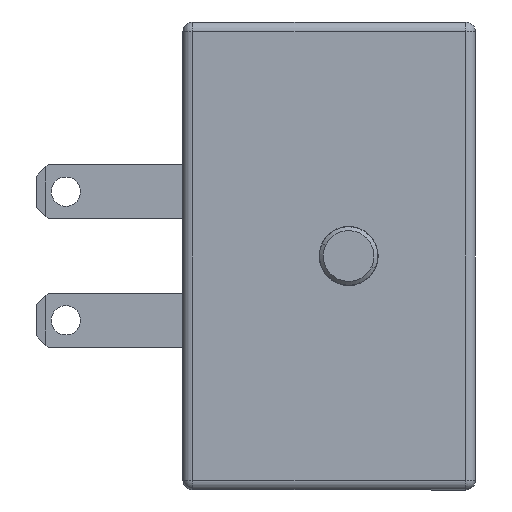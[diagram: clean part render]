
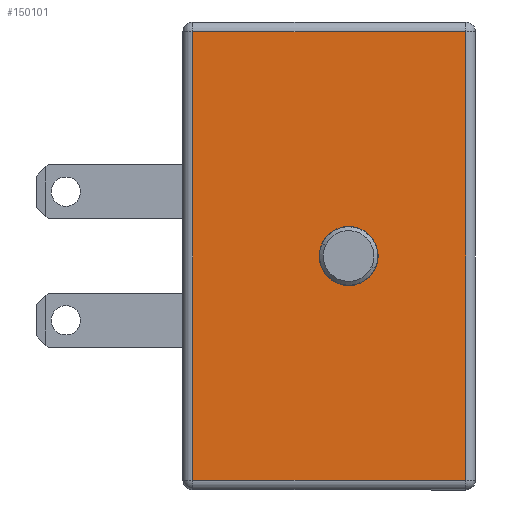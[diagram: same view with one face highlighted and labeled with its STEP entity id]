
A CAD part, left-side view. The second image highlights one B-rep face of the part: STEP entity #150101.
In plain terms, the highlighted planar face has unit normal (-1, 0, 0) as drawn and (0, 0, -1) by its records, which use the part's own axes.
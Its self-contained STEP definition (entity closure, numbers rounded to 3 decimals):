
#612 = VECTOR ( 'NONE', #70047, 1000. ) ;
#3307 = EDGE_CURVE ( 'NONE', #244696, #35557, #218947, .T. ) ;
#31004 = EDGE_LOOP ( 'NONE', ( #289036, #219005, #36861, #141944 ) ) ;
#35557 = VERTEX_POINT ( 'NONE', #102575 ) ;
#36861 = ORIENTED_EDGE ( 'NONE', *, *, #196784, .T. ) ;
#43823 = CARTESIAN_POINT ( 'NONE',  ( -11.5, -6., -52. ) ) ;
#48423 = DIRECTION ( 'NONE',  ( 0., 0., -1. ) ) ;
#60783 = CARTESIAN_POINT ( 'NONE',  ( -0.738, 1.323, -52. ) ) ;
#62293 = ORIENTED_EDGE ( 'NONE', *, *, #146040, .T. ) ;
#63508 = VECTOR ( 'NONE', #224549, 1000. ) ;
#70047 = DIRECTION ( 'NONE',  ( 0., 1., 0. ) ) ;
#78273 = DIRECTION ( 'NONE',  ( 0., 0., 1. ) ) ;
#85326 = EDGE_CURVE ( 'NONE', #131735, #228210, #153328, .T. ) ;
#92691 = EDGE_LOOP ( 'NONE', ( #62293, #278030 ) ) ;
#94389 = LINE ( 'NONE', #236343, #207138 ) ;
#102575 = CARTESIAN_POINT ( 'NONE',  ( -11.5, 8., -52. ) ) ;
#106475 = DIRECTION ( 'NONE',  ( 1., 0., 0. ) ) ;
#116274 = VERTEX_POINT ( 'NONE', #230665 ) ;
#130913 = AXIS2_PLACEMENT_3D ( 'NONE', #213167, #78273, #235744 ) ;
#131428 = FACE_OUTER_BOUND ( 'NONE', #31004, .T. ) ;
#131735 = VERTEX_POINT ( 'NONE', #60783 ) ;
#134122 = DIRECTION ( 'NONE',  ( 0., 0., 1. ) ) ;
#141944 = ORIENTED_EDGE ( 'NONE', *, *, #3307, .T. ) ;
#146040 = EDGE_CURVE ( 'NONE', #228210, #131735, #188540, .T. ) ;
#150101 = ADVANCED_FACE ( 'NONE', ( #251263, #131428 ), #183194, .T. ) ;
#151054 = LINE ( 'NONE', #218802, #270911 ) ;
#153328 = CIRCLE ( 'NONE', #130913, 1.515 ) ;
#162411 = CARTESIAN_POINT ( 'NONE',  ( -12., -6., -52. ) ) ;
#183194 = PLANE ( 'NONE',  #203149 ) ;
#186477 = CARTESIAN_POINT ( 'NONE',  ( 0.738, -1.323, -52. ) ) ;
#188540 = CIRCLE ( 'NONE', #202296, 1.515 ) ;
#196784 = EDGE_CURVE ( 'NONE', #116274, #244696, #221969, .T. ) ;
#202296 = AXIS2_PLACEMENT_3D ( 'NONE', #269008, #134122, #291494 ) ;
#203149 = AXIS2_PLACEMENT_3D ( 'NONE', #272779, #48423, #205927 ) ;
#205927 = DIRECTION ( 'NONE',  ( -0.487, 0.873, 0. ) ) ;
#207138 = VECTOR ( 'NONE', #263768, 1000. ) ;
#207595 = CARTESIAN_POINT ( 'NONE',  ( 11.5, 8., -52. ) ) ;
#213167 = CARTESIAN_POINT ( 'NONE',  ( 0., 0., -52. ) ) ;
#218802 = CARTESIAN_POINT ( 'NONE',  ( 12., 8., -52. ) ) ;
#218947 = LINE ( 'NONE', #227534, #612 ) ;
#219005 = ORIENTED_EDGE ( 'NONE', *, *, #258553, .T. ) ;
#221969 = LINE ( 'NONE', #162411, #63508 ) ;
#224549 = DIRECTION ( 'NONE',  ( -1., 0., 0. ) ) ;
#227534 = CARTESIAN_POINT ( 'NONE',  ( -11.5, 8.5, -52. ) ) ;
#228210 = VERTEX_POINT ( 'NONE', #186477 ) ;
#230665 = CARTESIAN_POINT ( 'NONE',  ( 11.5, -6., -52. ) ) ;
#235744 = DIRECTION ( 'NONE',  ( 0.487, -0.873, 0. ) ) ;
#236343 = CARTESIAN_POINT ( 'NONE',  ( 11.5, -6.5, -52. ) ) ;
#244696 = VERTEX_POINT ( 'NONE', #43823 ) ;
#251263 = FACE_BOUND ( 'NONE', #92691, .T. ) ;
#258553 = EDGE_CURVE ( 'NONE', #273978, #116274, #94389, .T. ) ;
#263768 = DIRECTION ( 'NONE',  ( 0., -1., 0. ) ) ;
#269008 = CARTESIAN_POINT ( 'NONE',  ( 0., 0., -52. ) ) ;
#270911 = VECTOR ( 'NONE', #106475, 1000. ) ;
#272779 = CARTESIAN_POINT ( 'NONE',  ( 0., 0., -52. ) ) ;
#273978 = VERTEX_POINT ( 'NONE', #207595 ) ;
#278030 = ORIENTED_EDGE ( 'NONE', *, *, #85326, .T. ) ;
#279154 = EDGE_CURVE ( 'NONE', #35557, #273978, #151054, .T. ) ;
#289036 = ORIENTED_EDGE ( 'NONE', *, *, #279154, .T. ) ;
#291494 = DIRECTION ( 'NONE',  ( 0.487, -0.873, 0. ) ) ;
